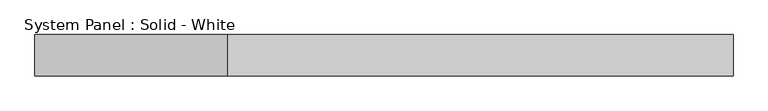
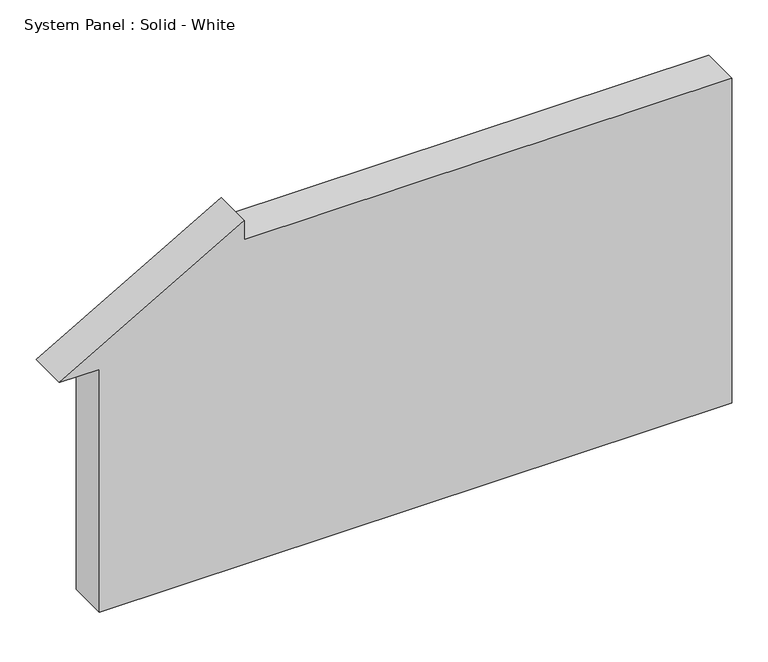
"""IFC4 building model written with IfcOpenShell, lengths in millimetres: plate geometry, System Panel : Solid - White."""

from ifc_helpers import new_model, si_unit, frame, origin, place, context, project, spatial, polyline, outline, extrude, source, transform, mapped, element, save


def system_panel_solid_white_917bb94f(model_context):
    return source(origin(), model_context, "Body", "SweptSolid", [
        extrude(outline(polyline([(0.0, -470.4291667), (0.0, 533.9291667), (546.1, 533.9291667), (546.1, -240.0709944), (577.85, -240.0709944), (408.1909051, -533.9291667), (408.1909051, -470.4291667), (0.0, -470.4291667)])), frame((0.0, -19.05, 0.0), z_axis=(0.0, 1.0, 0.0), x_axis=(0.0, 0.0, 1.0)), (0.0, 0.0, 1.0), 63.5),
    ])


if __name__ == "__main__":
    model = new_model("IFC4")
    model_context = context("Model", 3, world=origin())
    ifc_project = project(units=[si_unit("LENGTHUNIT", "METRE", prefix="MILLI")], contexts=[model_context])
    site = spatial("IfcSite", under=ifc_project)
    building = spatial("IfcBuilding", under=site)
    placement = place(None, origin())
    system_panel_solid_white_shape = system_panel_solid_white_917bb94f(model_context)
    element("IfcPlate", 1, ObjectType="System Panel : Solid - White", at=placement, inside=building, context=model_context, shape_type="MappedRepresentation", body=[
        mapped(system_panel_solid_white_shape, transform((0.0, 0.0, 0.0), x_axis=(1.0, 0.0, 0.0), y_axis=(0.0, 1.0, 0.0), z_axis=(0.0, 0.0, 1.0))),
    ])
    save(model, "model.ifc")
